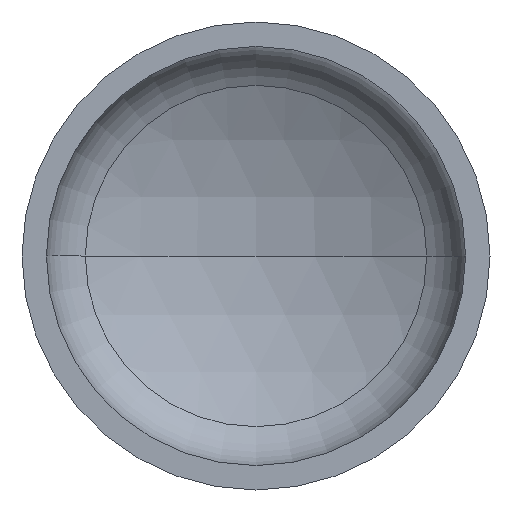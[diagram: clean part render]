
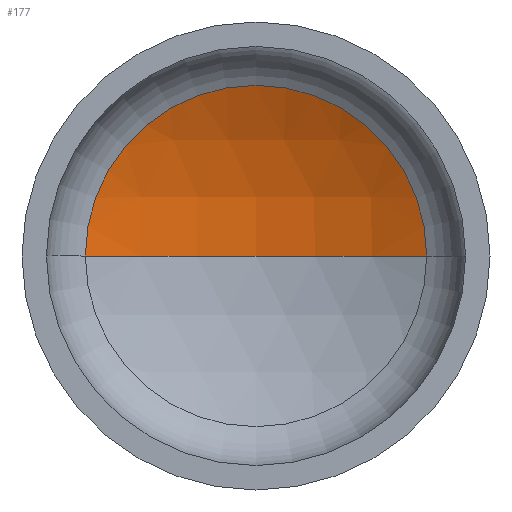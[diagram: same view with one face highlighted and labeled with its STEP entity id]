
A CAD part, front view. The second image highlights one B-rep face of the part: STEP entity #177.
In plain terms, the highlighted spherical face has radius 1440 mm.
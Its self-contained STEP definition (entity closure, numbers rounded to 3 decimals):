
#6 = EDGE_LOOP ( 'NONE', ( #280, #61, #50 ) ) ;
#11 = CARTESIAN_POINT ( 'NONE',  ( 0., -936.949, 0. ) ) ;
#21 = VERTEX_POINT ( 'NONE', #287 ) ;
#22 = AXIS2_PLACEMENT_3D ( 'NONE', #404, #261, #361 ) ;
#50 = ORIENTED_EDGE ( 'NONE', *, *, #342, .T. ) ;
#53 = VERTEX_POINT ( 'NONE', #238 ) ;
#61 = ORIENTED_EDGE ( 'NONE', *, *, #381, .T. ) ;
#84 = VERTEX_POINT ( 'NONE', #231 ) ;
#91 = AXIS2_PLACEMENT_3D ( 'NONE', #11, #201, #210 ) ;
#100 = CARTESIAN_POINT ( 'NONE',  ( 0., -936.949, 0. ) ) ;
#110 = SPHERICAL_SURFACE ( 'NONE', #91, 1440. ) ;
#177 = ADVANCED_FACE ( 'NONE', ( #379 ), #110, .F. ) ;
#191 = CARTESIAN_POINT ( 'NONE',  ( 0., -936.949, 0. ) ) ;
#199 = CIRCLE ( 'NONE', #285, 1440. ) ;
#201 = DIRECTION ( 'NONE',  ( 0., 0., -1. ) ) ;
#210 = DIRECTION ( 'NONE',  ( -1., 0., 0. ) ) ;
#217 = DIRECTION ( 'NONE',  ( -1., 0., 0. ) ) ;
#231 = CARTESIAN_POINT ( 'NONE',  ( 0., 503.051, 0. ) ) ;
#238 = CARTESIAN_POINT ( 'NONE',  ( -656.343, 344.773, 0. ) ) ;
#245 = AXIS2_PLACEMENT_3D ( 'NONE', #191, #369, #217 ) ;
#261 = DIRECTION ( 'NONE',  ( 0., -1., 0. ) ) ;
#280 = ORIENTED_EDGE ( 'NONE', *, *, #380, .F. ) ;
#283 = CIRCLE ( 'NONE', #22, 656.343 ) ;
#285 = AXIS2_PLACEMENT_3D ( 'NONE', #100, #296, #388 ) ;
#287 = CARTESIAN_POINT ( 'NONE',  ( 656.343, 344.773, 0. ) ) ;
#296 = DIRECTION ( 'NONE',  ( 0., 0., 1. ) ) ;
#339 = CIRCLE ( 'NONE', #245, 1440. ) ;
#342 = EDGE_CURVE ( 'NONE', #21, #53, #283, .T. ) ;
#361 = DIRECTION ( 'NONE',  ( 1., 0., 0. ) ) ;
#369 = DIRECTION ( 'NONE',  ( 0., 0., -1. ) ) ;
#379 = FACE_OUTER_BOUND ( 'NONE', #6, .T. ) ;
#380 = EDGE_CURVE ( 'NONE', #84, #53, #199, .T. ) ;
#381 = EDGE_CURVE ( 'NONE', #84, #21, #339, .T. ) ;
#388 = DIRECTION ( 'NONE',  ( 1., 0., 0. ) ) ;
#404 = CARTESIAN_POINT ( 'NONE',  ( 0., 344.773, 0. ) ) ;
